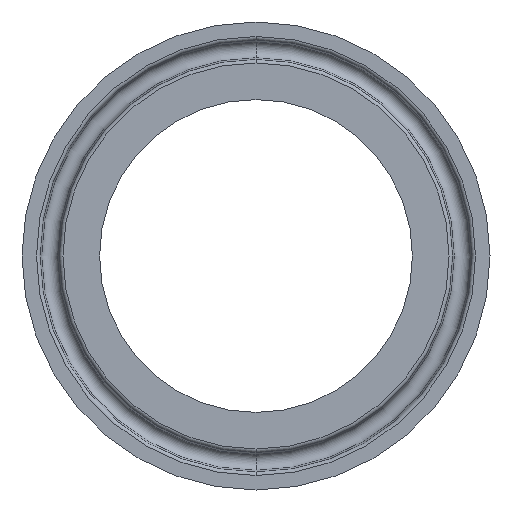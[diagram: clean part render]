
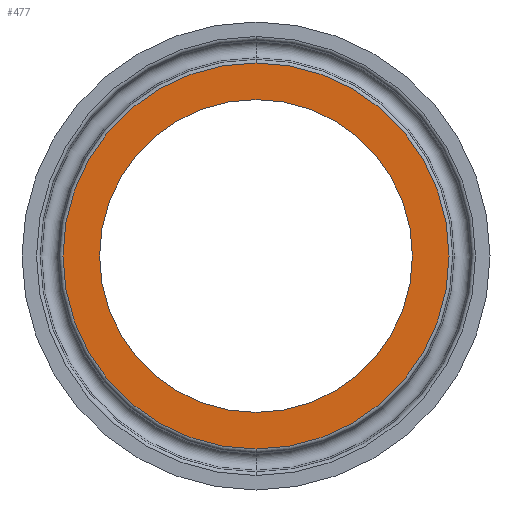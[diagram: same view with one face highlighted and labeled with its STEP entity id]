
A CAD part, front view. The second image highlights one B-rep face of the part: STEP entity #477.
In plain terms, the highlighted planar face has unit normal (0, -1, 0).
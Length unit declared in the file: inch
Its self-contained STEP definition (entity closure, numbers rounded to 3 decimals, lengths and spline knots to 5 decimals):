
#21 = ORIENTED_EDGE ( 'NONE', *, *, #330, .F. ) ;
#26 = ORIENTED_EDGE ( 'NONE', *, *, #90, .T. ) ;
#32 = CIRCLE ( 'NONE', #176, 0.841 ) ;
#73 = CARTESIAN_POINT ( 'NONE',  ( 0., 0., 0. ) ) ;
#76 = ORIENTED_EDGE ( 'NONE', *, *, #239, .T. ) ;
#90 = EDGE_CURVE ( 'NONE', #350, #584, #32, .T. ) ;
#103 = AXIS2_PLACEMENT_3D ( 'NONE', #545, #274, #173 ) ;
#112 = VERTEX_POINT ( 'NONE', #223 ) ;
#118 = DIRECTION ( 'NONE',  ( 0., 1., 0. ) ) ;
#141 = CARTESIAN_POINT ( 'NONE',  ( 0., 0., 1.03791 ) ) ;
#156 = AXIS2_PLACEMENT_3D ( 'NONE', #73, #118, #435 ) ;
#165 = DIRECTION ( 'NONE',  ( 0., 0., 1. ) ) ;
#173 = DIRECTION ( 'NONE',  ( 0., 0., 1. ) ) ;
#174 = DIRECTION ( 'NONE',  ( 0., 1., 0. ) ) ;
#176 = AXIS2_PLACEMENT_3D ( 'NONE', #467, #579, #465 ) ;
#180 = FACE_BOUND ( 'NONE', #633, .T. ) ;
#191 = DIRECTION ( 'NONE',  ( 0., 1., 0. ) ) ;
#223 = CARTESIAN_POINT ( 'NONE',  ( 0., 0., -1.03791 ) ) ;
#235 = PLANE ( 'NONE',  #103 ) ;
#239 = EDGE_CURVE ( 'NONE', #584, #350, #608, .T. ) ;
#248 = CARTESIAN_POINT ( 'NONE',  ( 0., 0., 0. ) ) ;
#264 = EDGE_LOOP ( 'NONE', ( #21, #494 ) ) ;
#274 = DIRECTION ( 'NONE',  ( 0., 1., 0. ) ) ;
#327 = AXIS2_PLACEMENT_3D ( 'NONE', #632, #174, #165 ) ;
#330 = EDGE_CURVE ( 'NONE', #592, #112, #386, .T. ) ;
#342 = FACE_OUTER_BOUND ( 'NONE', #264, .T. ) ;
#350 = VERTEX_POINT ( 'NONE', #612 ) ;
#384 = CIRCLE ( 'NONE', #156, 1.03791 ) ;
#386 = CIRCLE ( 'NONE', #638, 1.03791 ) ;
#410 = EDGE_CURVE ( 'NONE', #112, #592, #384, .T. ) ;
#435 = DIRECTION ( 'NONE',  ( 0., 0., 1. ) ) ;
#451 = DIRECTION ( 'NONE',  ( 0., 0., 1. ) ) ;
#465 = DIRECTION ( 'NONE',  ( 0., 0., 1. ) ) ;
#467 = CARTESIAN_POINT ( 'NONE',  ( 0., 0., 0. ) ) ;
#477 = ADVANCED_FACE ( 'NONE', ( #342, #180 ), #235, .F. ) ;
#494 = ORIENTED_EDGE ( 'NONE', *, *, #410, .F. ) ;
#545 = CARTESIAN_POINT ( 'NONE',  ( 0., 0., 0. ) ) ;
#579 = DIRECTION ( 'NONE',  ( 0., 1., 0. ) ) ;
#584 = VERTEX_POINT ( 'NONE', #607 ) ;
#592 = VERTEX_POINT ( 'NONE', #141 ) ;
#607 = CARTESIAN_POINT ( 'NONE',  ( 0., 0., 0.841 ) ) ;
#608 = CIRCLE ( 'NONE', #327, 0.841 ) ;
#612 = CARTESIAN_POINT ( 'NONE',  ( 0., 0., -0.841 ) ) ;
#632 = CARTESIAN_POINT ( 'NONE',  ( 0., 0., 0. ) ) ;
#633 = EDGE_LOOP ( 'NONE', ( #76, #26 ) ) ;
#638 = AXIS2_PLACEMENT_3D ( 'NONE', #248, #191, #451 ) ;
